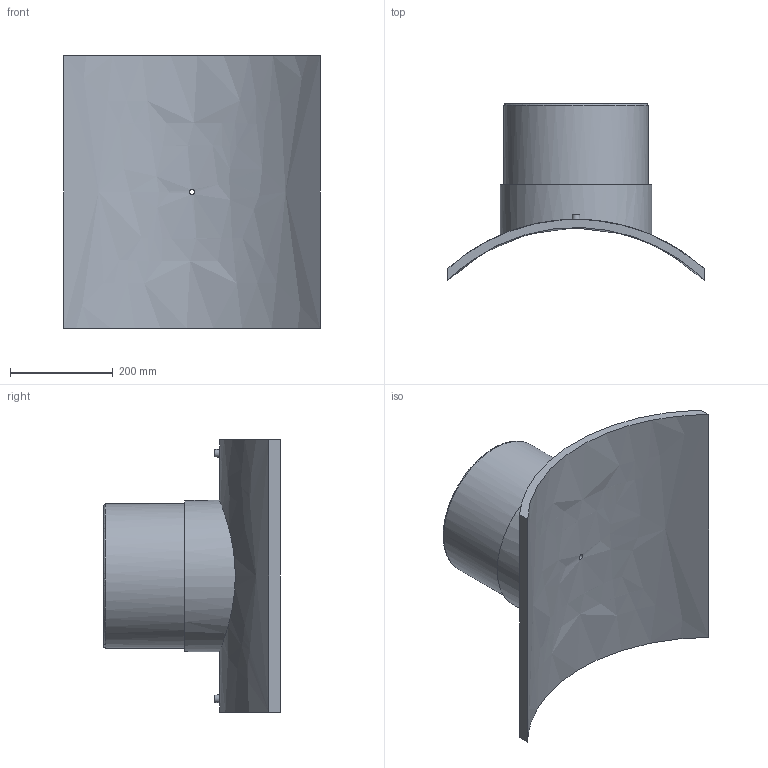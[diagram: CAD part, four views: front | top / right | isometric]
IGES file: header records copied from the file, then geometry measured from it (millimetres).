
Global section: file name: 495803710280T; native system: Autodesk Inventor 2019; preprocessor: unknown; author: KIM; date: 20240404.115622; units: millimetre
Bounding box: 498 x 342.97 x 530 mm (x, y, z)
Volume: 10414369.3 mm3; surface area: 1009874.5 mm2
Topology: 1 solids, 1 shells, 29 faces, 60 edges, 43 vertices
Faces by surface type: bspline 29
